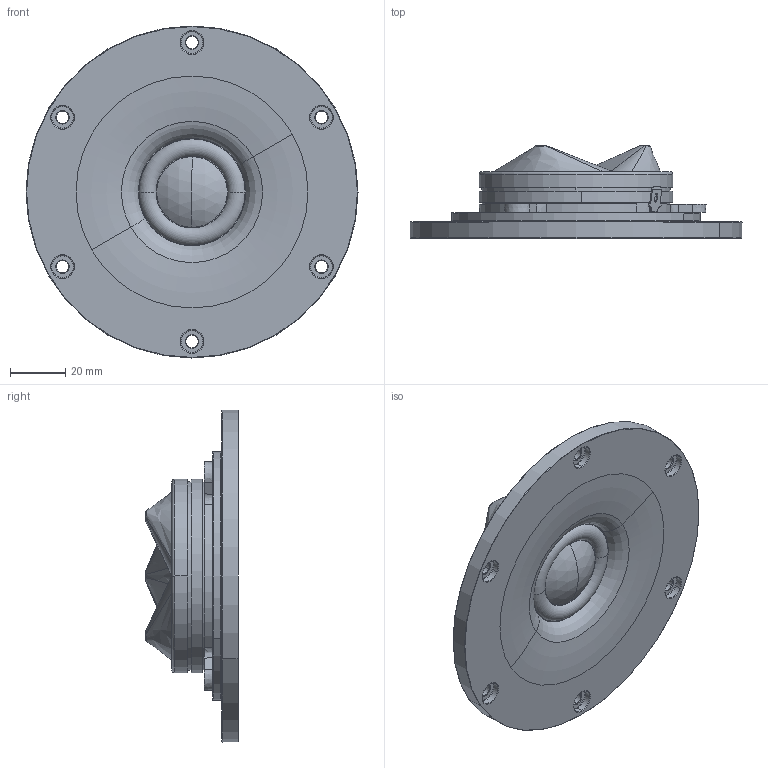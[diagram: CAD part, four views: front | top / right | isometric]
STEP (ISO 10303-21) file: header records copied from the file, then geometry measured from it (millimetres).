
FILE_DESCRIPTION (( 'STEP AP214' ), '1' );
FILE_NAME ('D2908_716000.STEP', '2024-04-30T11:15:29', ( '' ), ( '' ), 'SwSTEP 2.0', 'SolidWorks 2024', '' );
FILE_SCHEMA (( 'AUTOMOTIVE_DESIGN' ));
Length unit declared in the file: millimetre
Products named in the file (1): D2908_716000
Bounding box: 119.99 x 33.52 x 119.99 mm (x, y, z)
Volume: 135198.6 mm3; surface area: 40315.6 mm2
Topology: 1 solids, 8 shells, 535 faces, 1378 edges, 856 vertices
Faces by surface type: plane 147, torus 135, cylinder 119, bspline 78, cone 54, sphere 2
Entity records: 18704 total; most frequent: CARTESIAN_POINT 6131, ORIENTED_EDGE 2728, DIRECTION 2572, EDGE_CURVE 1364, AXIS2_PLACEMENT_3D 1058, VERTEX_POINT 856, CIRCLE 600, EDGE_LOOP 584
